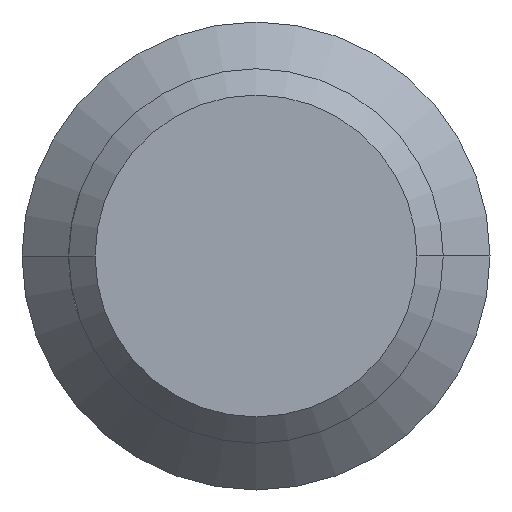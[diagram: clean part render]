
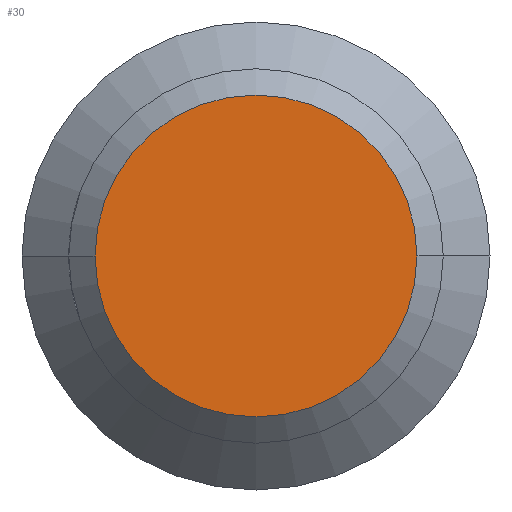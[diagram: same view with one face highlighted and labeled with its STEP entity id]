
A CAD part, left-side view. The second image highlights one B-rep face of the part: STEP entity #30.
In plain terms, the highlighted planar face has unit normal (-1, 0, 0).
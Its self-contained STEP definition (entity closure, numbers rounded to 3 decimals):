
#8 = EDGE_LOOP ( 'NONE', ( #37, #221 ) ) ;
#9 = EDGE_CURVE ( 'NONE', #584, #12, #197, .T. ) ;
#12 = VERTEX_POINT ( 'NONE', #211 ) ;
#30 = ADVANCED_FACE ( 'NONE', ( #332 ), #333, .T. ) ;
#31 = EDGE_CURVE ( 'NONE', #12, #584, #348, .T. ) ;
#37 = ORIENTED_EDGE ( 'NONE', *, *, #9, .T. ) ;
#197 = CIRCLE ( 'NONE', #198, 8.6 ) ;
#198 = AXIS2_PLACEMENT_3D ( 'NONE', #199, #200, #201 ) ;
#199 = CARTESIAN_POINT ( 'NONE',  ( -83., 0., 0. ) ) ;
#200 = DIRECTION ( 'NONE',  ( -1., 0., 0. ) ) ;
#201 = DIRECTION ( 'NONE',  ( 0., -1., 0. ) ) ;
#211 = CARTESIAN_POINT ( 'NONE',  ( -83., -8.6, 0. ) ) ;
#221 = ORIENTED_EDGE ( 'NONE', *, *, #31, .T. ) ;
#332 = FACE_OUTER_BOUND ( 'NONE', #8, .T. ) ;
#333 = PLANE ( 'NONE',  #334 ) ;
#334 = AXIS2_PLACEMENT_3D ( 'NONE', #335, #336, #337 ) ;
#335 = CARTESIAN_POINT ( 'NONE',  ( -83., 0., 0. ) ) ;
#336 = DIRECTION ( 'NONE',  ( -1., 0., 0. ) ) ;
#337 = DIRECTION ( 'NONE',  ( 0., -1., 0. ) ) ;
#348 = CIRCLE ( 'NONE', #349, 8.6 ) ;
#349 = AXIS2_PLACEMENT_3D ( 'NONE', #350, #351, #352 ) ;
#350 = CARTESIAN_POINT ( 'NONE',  ( -83., 0., 0. ) ) ;
#351 = DIRECTION ( 'NONE',  ( -1., 0., 0. ) ) ;
#352 = DIRECTION ( 'NONE',  ( 0., -1., 0. ) ) ;
#410 = CARTESIAN_POINT ( 'NONE',  ( -83., 8.6, 0. ) ) ;
#584 = VERTEX_POINT ( 'NONE', #410 ) ;
